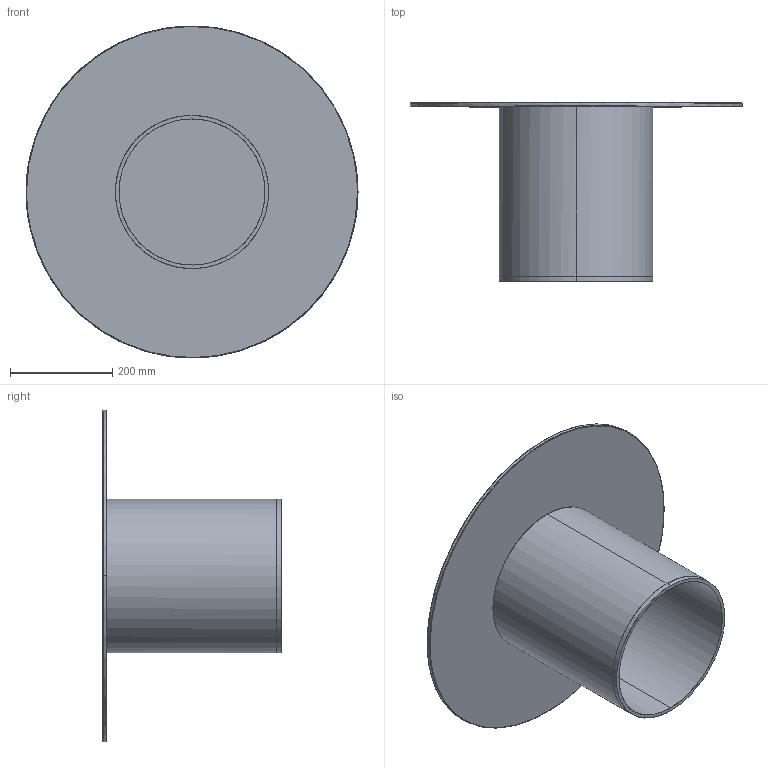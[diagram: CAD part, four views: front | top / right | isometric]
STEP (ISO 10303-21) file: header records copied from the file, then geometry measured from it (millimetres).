
FILE_DESCRIPTION(/* description */ (''),/* implementation_level */ '2;1');
FILE_NAME(/* name */ 'GLASS TABLE BAJA D300X350',/* time_stamp */ '2022-07-01T08:59:15+02:00',/* author */ (''),/* organization */ (''),/* preprocessor_version */ 'ST-DEVELOPER v16.5',/* originating_system */ '',/* authorisation */ '');
FILE_SCHEMA (('AUTOMOTIVE_DESIGN'));
Length unit declared in the file: millimetre
Products named in the file (2): Document; GLASS TABLE BAJA D300X350
Assembly tree (1 placements, depth 2):
  Document
    GLASS TABLE BAJA D300X350
Bounding box: 650 x 350 x 649.89 mm (x, y, z)
Surface area: 1321477.7 mm2 (no closed solid volume)
Topology: 0 solids, 17 shells, 17 faces, 56 edges, 56 vertices
Faces by surface type: bspline 12, plane 5
Entity records: 1019 total; most frequent: CARTESIAN_POINT 521, ORIENTED_EDGE 56, EDGE_CURVE 56, VERTEX_POINT 56, B_SPLINE_CURVE_WITH_KNOTS 24, EDGE_LOOP 20, COLOUR_RGB 17, FILL_AREA_STYLE_COLOUR 17
